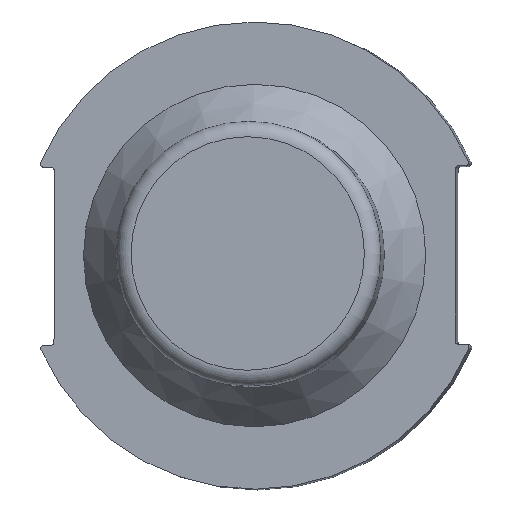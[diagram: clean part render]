
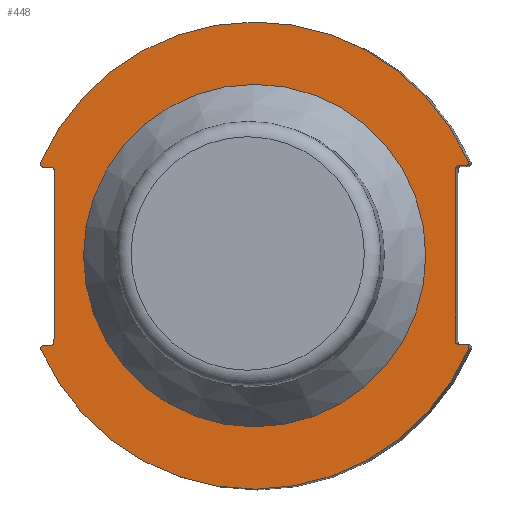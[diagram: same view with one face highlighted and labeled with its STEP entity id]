
A CAD part, front view. The second image highlights one B-rep face of the part: STEP entity #448.
In plain terms, the highlighted planar face has unit normal (-0.044, -0.999, 0.013).
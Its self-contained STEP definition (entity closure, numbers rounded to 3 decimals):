
#18=FACE_BOUND('',#148,.T.);
#23=PLANE('',#501);
#35=LINE('',#734,#68);
#36=LINE('',#738,#69);
#37=LINE('',#742,#70);
#38=LINE('',#750,#71);
#39=LINE('',#754,#72);
#40=LINE('',#758,#73);
#68=VECTOR('',#588,10.);
#69=VECTOR('',#591,10.);
#70=VECTOR('',#594,10.);
#71=VECTOR('',#601,10.);
#72=VECTOR('',#604,10.);
#73=VECTOR('',#607,10.);
#118=FACE_OUTER_BOUND('',#147,.T.);
#147=EDGE_LOOP('',(#332,#333,#334,#335,#336,#337,#338,#339,#340,#341,#342,
#343,#344,#345,#346,#347));
#148=EDGE_LOOP('',(#348));
#178=CIRCLE('',#499,0.05);
#180=CIRCLE('',#502,0.05);
#181=CIRCLE('',#503,0.05);
#182=CIRCLE('',#504,0.05);
#183=CIRCLE('',#505,3.75);
#184=CIRCLE('',#506,0.05);
#185=CIRCLE('',#507,0.05);
#186=CIRCLE('',#508,0.05);
#187=CIRCLE('',#509,0.05);
#188=CIRCLE('',#510,3.75);
#189=CIRCLE('',#511,2.75);
#208=VERTEX_POINT('',#724);
#209=VERTEX_POINT('',#725);
#212=VERTEX_POINT('',#733);
#213=VERTEX_POINT('',#735);
#214=VERTEX_POINT('',#737);
#215=VERTEX_POINT('',#739);
#216=VERTEX_POINT('',#741);
#217=VERTEX_POINT('',#743);
#218=VERTEX_POINT('',#745);
#219=VERTEX_POINT('',#747);
#220=VERTEX_POINT('',#749);
#221=VERTEX_POINT('',#751);
#222=VERTEX_POINT('',#753);
#223=VERTEX_POINT('',#755);
#224=VERTEX_POINT('',#757);
#225=VERTEX_POINT('',#759);
#226=VERTEX_POINT('',#762);
#254=EDGE_CURVE('',#208,#209,#178,.T.);
#258=EDGE_CURVE('',#208,#212,#35,.T.);
#259=EDGE_CURVE('',#213,#212,#180,.T.);
#260=EDGE_CURVE('',#213,#214,#36,.T.);
#261=EDGE_CURVE('',#215,#214,#181,.T.);
#262=EDGE_CURVE('',#215,#216,#37,.T.);
#263=EDGE_CURVE('',#217,#216,#182,.T.);
#264=EDGE_CURVE('',#217,#218,#183,.T.);
#265=EDGE_CURVE('',#219,#218,#184,.T.);
#266=EDGE_CURVE('',#219,#220,#38,.T.);
#267=EDGE_CURVE('',#221,#220,#185,.T.);
#268=EDGE_CURVE('',#221,#222,#39,.T.);
#269=EDGE_CURVE('',#223,#222,#186,.T.);
#270=EDGE_CURVE('',#223,#224,#40,.T.);
#271=EDGE_CURVE('',#225,#224,#187,.T.);
#272=EDGE_CURVE('',#225,#209,#188,.T.);
#273=EDGE_CURVE('',#226,#226,#189,.T.);
#332=ORIENTED_EDGE('',*,*,#254,.F.);
#333=ORIENTED_EDGE('',*,*,#258,.T.);
#334=ORIENTED_EDGE('',*,*,#259,.F.);
#335=ORIENTED_EDGE('',*,*,#260,.T.);
#336=ORIENTED_EDGE('',*,*,#261,.F.);
#337=ORIENTED_EDGE('',*,*,#262,.T.);
#338=ORIENTED_EDGE('',*,*,#263,.F.);
#339=ORIENTED_EDGE('',*,*,#264,.T.);
#340=ORIENTED_EDGE('',*,*,#265,.F.);
#341=ORIENTED_EDGE('',*,*,#266,.T.);
#342=ORIENTED_EDGE('',*,*,#267,.F.);
#343=ORIENTED_EDGE('',*,*,#268,.T.);
#344=ORIENTED_EDGE('',*,*,#269,.F.);
#345=ORIENTED_EDGE('',*,*,#270,.T.);
#346=ORIENTED_EDGE('',*,*,#271,.F.);
#347=ORIENTED_EDGE('',*,*,#272,.T.);
#348=ORIENTED_EDGE('',*,*,#273,.T.);
#448=ADVANCED_FACE('',(#118,#18),#23,.T.);
#499=AXIS2_PLACEMENT_3D('',#726,#580,#581);
#501=AXIS2_PLACEMENT_3D('',#732,#586,#587);
#502=AXIS2_PLACEMENT_3D('',#736,#589,#590);
#503=AXIS2_PLACEMENT_3D('',#740,#592,#593);
#504=AXIS2_PLACEMENT_3D('',#744,#595,#596);
#505=AXIS2_PLACEMENT_3D('',#746,#597,#598);
#506=AXIS2_PLACEMENT_3D('',#748,#599,#600);
#507=AXIS2_PLACEMENT_3D('',#752,#602,#603);
#508=AXIS2_PLACEMENT_3D('',#756,#605,#606);
#509=AXIS2_PLACEMENT_3D('',#760,#608,#609);
#510=AXIS2_PLACEMENT_3D('',#761,#610,#611);
#511=AXIS2_PLACEMENT_3D('',#763,#612,#613);
#580=DIRECTION('center_axis',(0.044,0.999,-0.013));
#581=DIRECTION('ref_axis',(0.835,-0.029,0.549));
#586=DIRECTION('center_axis',(-0.044,-0.999,0.013));
#587=DIRECTION('ref_axis',(0.,-0.013,-1.));
#588=DIRECTION('',(-0.999,0.044,0.));
#589=DIRECTION('center_axis',(-0.044,-0.999,0.013));
#590=DIRECTION('ref_axis',(-0.707,0.022,-0.707));
#591=DIRECTION('',(0.001,0.013,1.));
#592=DIRECTION('center_axis',(-0.044,-0.999,0.013));
#593=DIRECTION('ref_axis',(-0.706,0.04,0.707));
#594=DIRECTION('',(0.999,-0.044,0.));
#595=DIRECTION('center_axis',(0.044,0.999,-0.013));
#596=DIRECTION('ref_axis',(0.836,-0.044,-0.546));
#597=DIRECTION('center_axis',(-0.044,-0.999,0.013));
#598=DIRECTION('ref_axis',(0.,-0.013,-1.));
#599=DIRECTION('center_axis',(0.044,0.999,-0.013));
#600=DIRECTION('ref_axis',(-0.835,0.029,-0.549));
#601=DIRECTION('',(0.999,-0.044,0.));
#602=DIRECTION('center_axis',(-0.044,-0.999,0.013));
#603=DIRECTION('ref_axis',(0.707,-0.022,0.707));
#604=DIRECTION('',(-0.001,-0.013,-1.));
#605=DIRECTION('center_axis',(-0.044,-0.999,0.013));
#606=DIRECTION('ref_axis',(0.706,-0.04,-0.707));
#607=DIRECTION('',(-0.999,0.044,0.));
#608=DIRECTION('center_axis',(0.044,0.999,-0.013));
#609=DIRECTION('ref_axis',(-0.836,0.044,0.546));
#610=DIRECTION('center_axis',(-0.044,-0.999,0.013));
#611=DIRECTION('ref_axis',(0.,-0.013,-1.));
#612=DIRECTION('center_axis',(0.044,0.999,-0.013));
#613=DIRECTION('ref_axis',(0.,-0.013,-1.));
#724=CARTESIAN_POINT('',(36.957,18.941,-9.46));
#725=CARTESIAN_POINT('',(37.003,18.938,-9.53));
#726=CARTESIAN_POINT('Origin',(36.957,18.941,-9.51));
#732=CARTESIAN_POINT('Origin',(33.566,19.108,-8.038));
#733=CARTESIAN_POINT('',(36.835,18.947,-9.46));
#734=CARTESIAN_POINT('',(35.299,19.014,-9.46));
#735=CARTESIAN_POINT('',(36.785,18.949,-9.41));
#736=CARTESIAN_POINT('Origin',(36.835,18.947,-9.41));
#737=CARTESIAN_POINT('',(36.787,18.986,-6.647));
#738=CARTESIAN_POINT('',(36.786,18.958,-8.749));
#739=CARTESIAN_POINT('',(36.837,18.984,-6.597));
#740=CARTESIAN_POINT('Origin',(36.837,18.983,-6.647));
#741=CARTESIAN_POINT('',(36.95,18.979,-6.597));
#742=CARTESIAN_POINT('',(35.177,19.057,-6.597));
#743=CARTESIAN_POINT('',(36.995,18.978,-6.527));
#744=CARTESIAN_POINT('Origin',(36.95,18.98,-6.547));
#745=CARTESIAN_POINT('',(30.129,19.278,-6.547));
#746=CARTESIAN_POINT('Origin',(33.566,19.108,-8.038));
#747=CARTESIAN_POINT('',(30.175,19.275,-6.617));
#748=CARTESIAN_POINT('Origin',(30.175,19.275,-6.567));
#749=CARTESIAN_POINT('',(30.297,19.269,-6.617));
#750=CARTESIAN_POINT('',(31.833,19.202,-6.617));
#751=CARTESIAN_POINT('',(30.347,19.266,-6.667));
#752=CARTESIAN_POINT('Origin',(30.297,19.269,-6.667));
#753=CARTESIAN_POINT('',(30.345,19.23,-9.43));
#754=CARTESIAN_POINT('',(30.346,19.258,-7.328));
#755=CARTESIAN_POINT('',(30.295,19.232,-9.48));
#756=CARTESIAN_POINT('Origin',(30.295,19.233,-9.43));
#757=CARTESIAN_POINT('',(30.182,19.237,-9.48));
#758=CARTESIAN_POINT('',(31.955,19.159,-9.48));
#759=CARTESIAN_POINT('',(30.137,19.238,-9.55));
#760=CARTESIAN_POINT('Origin',(30.182,19.236,-9.53));
#761=CARTESIAN_POINT('Origin',(33.566,19.108,-8.038));
#762=CARTESIAN_POINT('',(33.566,19.144,-5.289));
#763=CARTESIAN_POINT('Origin',(33.566,19.108,-8.038));
